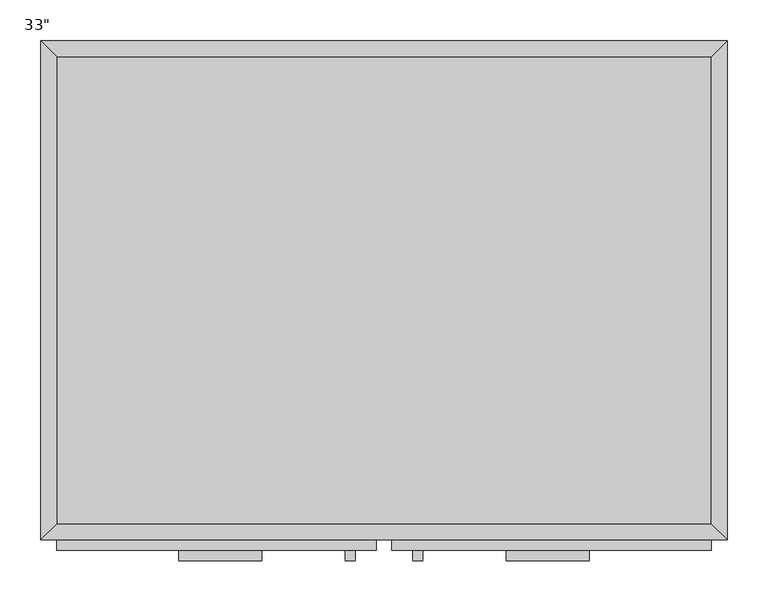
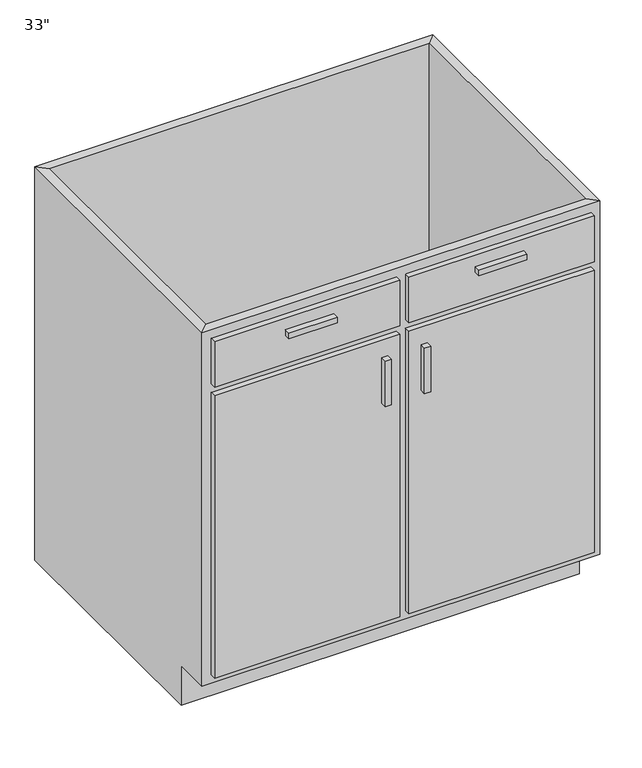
"""IFC4 building model written with IfcOpenShell, lengths in millimetres: furniture geometry."""

from ifc_helpers import new_model, si_unit, frame, origin, place, context, project, spatial, polyline, outline, extrude, faceted_brep, source, transform, mapped, element, save


def furniture_7de88fd5(model_context):
    return source(origin(), model_context, "Body", "SolidModel", [
        faceted_brep([(418.7877049, -590.55, 876.3), (418.7877049, -590.55, 88.9), (-381.3122951, -590.55, 88.9), (-381.3122951, -590.55, 876.3), (-400.3622951, -609.6, 876.3), (437.8377049, -609.6, 876.3), (-400.3622951, -609.6, 88.9), (437.8377049, -609.6, 88.9), (-381.3122951, -533.4, 88.9), (-381.3122951, -19.05, 88.9), (-381.3122951, -19.05, 876.3), (-400.3622951, 0.0, 876.3), (-400.3622951, 0.0, 0.0), (-400.3622951, -533.4, 0.0), (-400.3622951, -533.4, 88.9), (418.7877049, -19.05, 88.9), (418.7877049, -19.05, 876.3), (437.8377049, 0.0, 876.3), (437.8377049, 0.0, 0.0), (418.7877049, -533.4, 88.9), (437.8377049, -533.4, 88.9), (437.8377049, -533.4, 0.0)], [[[0, 1, 2, 3]], [[0, 3, 4, 5]], [[5, 4, 6, 7]], [[2, 1, 7, 6]], [[3, 2, 8, 9, 10]], [[4, 3, 10, 11]], [[6, 4, 11, 12, 13, 14]], [[2, 6, 14, 8]], [[10, 9, 15, 16]], [[11, 10, 16, 17]], [[12, 11, 17, 18]], [[1, 0, 16, 15, 19]], [[0, 5, 17, 16]], [[5, 7, 20, 21, 18, 17]], [[7, 1, 19, 20]], [[8, 19, 15, 9]], [[18, 21, 13, 12]], [[13, 21, 20, 19, 8, 14]]]),
        extrude(outline(polyline([(-130.4872951, -635.0), (-232.0872951, -635.0), (-232.0872951, -622.3), (-130.4872951, -622.3), (-130.4872951, -635.0)])), frame((0.0, 0.0, 819.15), z_axis=(0.0, 0.0, 1.0), x_axis=(1.0, 0.0, 0.0)), (0.0, 0.0, 1.0), 12.7),
        extrude(outline(polyline([(269.5627049, -635.0), (167.9627049, -635.0), (167.9627049, -622.3), (269.5627049, -622.3), (269.5627049, -635.0)])), frame((0.0, 0.0, 819.15), z_axis=(0.0, 0.0, 1.0), x_axis=(1.0, 0.0, 0.0)), (0.0, 0.0, 1.0), 12.7),
        extrude(outline(polyline([(-16.1872951, -635.0), (-28.8872951, -635.0), (-28.8872951, -622.3), (-16.1872951, -622.3), (-16.1872951, -635.0)])), frame((0.0, 0.0, 596.9), z_axis=(0.0, 0.0, 1.0), x_axis=(1.0, 0.0, 0.0)), (0.0, 0.0, 1.0), 101.6),
        extrude(outline(polyline([(66.3627049, -635.0), (53.6627049, -635.0), (53.6627049, -622.3), (66.3627049, -622.3), (66.3627049, -635.0)])), frame((0.0, 0.0, 596.9), z_axis=(0.0, 0.0, 1.0), x_axis=(1.0, 0.0, 0.0)), (0.0, 0.0, 1.0), 101.6),
        extrude(outline(polyline([(418.7877049, -19.05), (418.7877049, -590.55), (-381.3122951, -590.55), (-381.3122951, -19.05), (418.7877049, -19.05)])), frame((0.0, 0.0, 88.9), z_axis=(0.0, 0.0, 1.0), x_axis=(1.0, 0.0, 0.0)), (0.0, 0.0, 1.0), 19.05),
        extrude(outline(polyline([(9.2127049, -622.3), (-381.3122951, -622.3), (-381.3122951, -609.6), (9.2127049, -609.6), (9.2127049, -622.3)])), frame((0.0, 0.0, 755.65), z_axis=(0.0, 0.0, 1.0), x_axis=(1.0, 0.0, 0.0)), (0.0, 0.0, 1.0), 101.6),
        extrude(outline(polyline([(418.7877049, -622.3), (28.2627049, -622.3), (28.2627049, -609.6), (418.7877049, -609.6), (418.7877049, -622.3)])), frame((0.0, 0.0, 755.65), z_axis=(0.0, 0.0, 1.0), x_axis=(1.0, 0.0, 0.0)), (0.0, 0.0, 1.0), 101.6),
        extrude(outline(polyline([(9.2127049, -622.3), (-381.3122951, -622.3), (-381.3122951, -609.6), (9.2127049, -609.6), (9.2127049, -622.3)])), frame((0.0, 0.0, 107.95), z_axis=(0.0, 0.0, 1.0), x_axis=(1.0, 0.0, 0.0)), (0.0, 0.0, 1.0), 628.65),
        extrude(outline(polyline([(418.7877049, -622.3), (28.2627049, -622.3), (28.2627049, -609.6), (418.7877049, -609.6), (418.7877049, -622.3)])), frame((0.0, 0.0, 107.95), z_axis=(0.0, 0.0, 1.0), x_axis=(1.0, 0.0, 0.0)), (0.0, 0.0, 1.0), 628.65),
    ])


if __name__ == "__main__":
    model = new_model("IFC4")
    model_context = context("Model", 3, world=origin())
    ifc_project = project(units=[si_unit("LENGTHUNIT", "METRE", prefix="MILLI")], contexts=[model_context])
    site = spatial("IfcSite", under=ifc_project)
    building = spatial("IfcBuilding", under=site)
    placement = place(None, origin())
    furniture_shape = furniture_7de88fd5(model_context)
    element("IfcFurniture", 1, ObjectType="Base Cabinet-Double Door & 2 Drawer : 33\"", at=placement, inside=building, context=model_context, shape_type="MappedRepresentation", body=[
        mapped(furniture_shape, transform((0.0, 0.0, 0.0), x_axis=(1.0, 0.0, 0.0), y_axis=(0.0, 1.0, 0.0), z_axis=(0.0, 0.0, 1.0))),
    ])
    save(model, "model.ifc")
